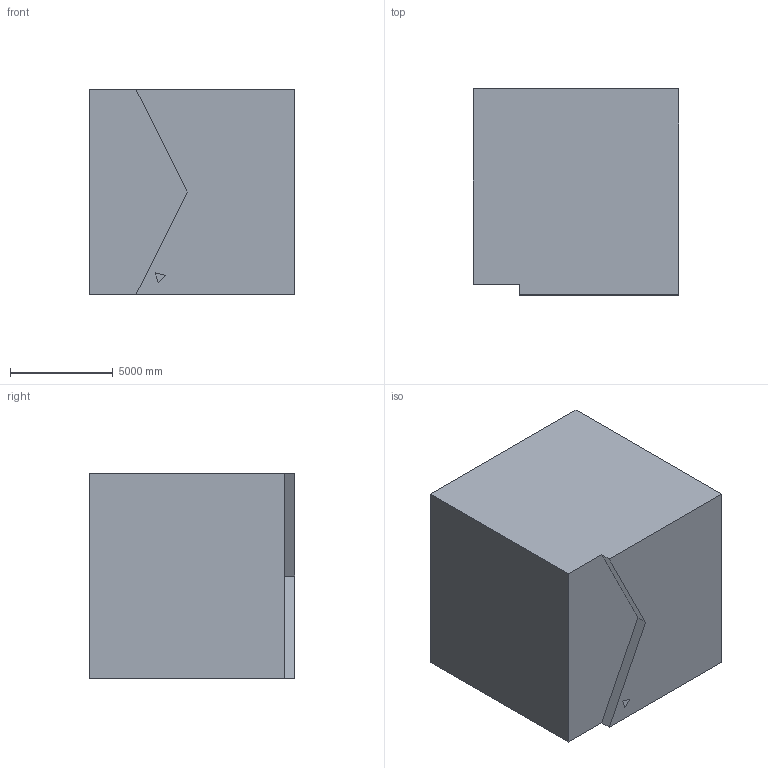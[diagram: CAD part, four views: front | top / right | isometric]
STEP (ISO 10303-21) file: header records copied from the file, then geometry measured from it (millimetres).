
FILE_DESCRIPTION (( 'STEP AP203' ), '1' );
FILE_NAME ('116.STEP', '2022-09-06T13:18:27', ( 'user' ), ( '' ), 'SwSTEP 2.0', 'SolidWorks 2021', '' );
FILE_SCHEMA (( 'CONFIG_CONTROL_DESIGN' ));
Length unit declared in the file: centimetre
Products named in the file (1): 116
Bounding box: 10000 x 10000 x 10000 mm (x, y, z)
Volume: 981222799117.8 mm3; surface area: 606558125.2 mm2
Topology: 1 solids, 1 shells, 13 faces, 30 edges, 20 vertices
Faces by surface type: plane 13
Entity records: 441 total; most frequent: CARTESIAN_POINT 64, ORIENTED_EDGE 60, DIRECTION 58, LINE 30, VECTOR 30, EDGE_CURVE 30, VERTEX_POINT 20, EDGE_LOOP 14
